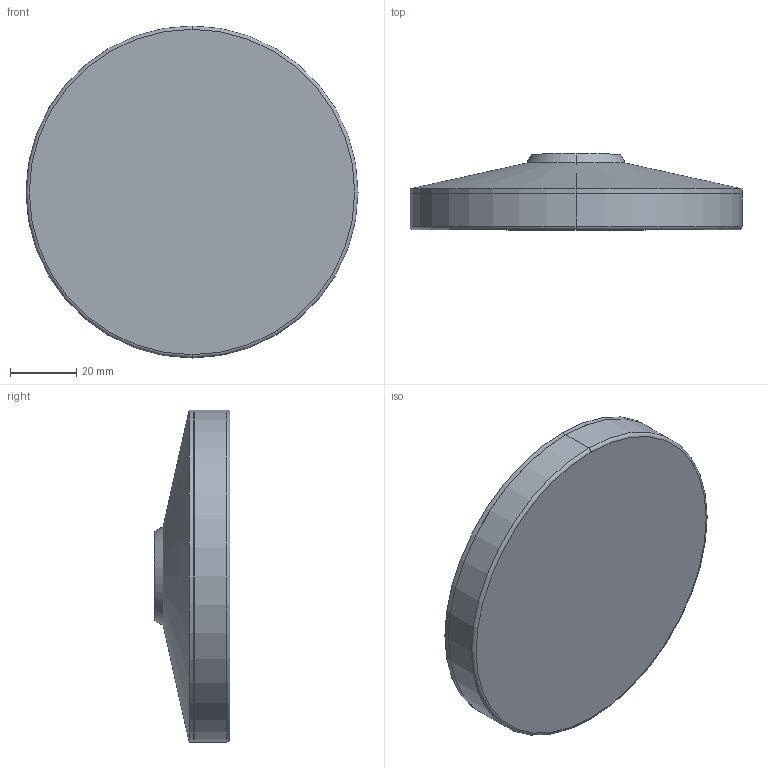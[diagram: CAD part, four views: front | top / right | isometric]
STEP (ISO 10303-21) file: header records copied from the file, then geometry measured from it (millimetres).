
FILE_DESCRIPTION (( 'STEP AP214' ), '1' );
FILE_NAME ('6311.3-100-20-R.step', '2023-04-17T05:34:32', ( '' ), ( '' ), 'SwSTEP 2.0', 'SolidWorks 2022', '' );
FILE_SCHEMA (( 'AUTOMOTIVE_DESIGN' ));
Length unit declared in the file: millimetre
Products named in the file (1): 6311.3-100-20-R
Bounding box: 100 x 22.8 x 100 mm (x, y, z)
Volume: 125142.4 mm3; surface area: 21209.9 mm2
Topology: 1 solids, 1 shells, 36 faces, 79 edges, 50 vertices
Faces by surface type: cylinder 16, plane 8, torus 6, cone 4, sphere 2
Entity records: 1150 total; most frequent: CARTESIAN_POINT 202, DIRECTION 201, ORIENTED_EDGE 158, AXIS2_PLACEMENT_3D 89, EDGE_CURVE 79, CIRCLE 52, VERTEX_POINT 50, EDGE_LOOP 41
